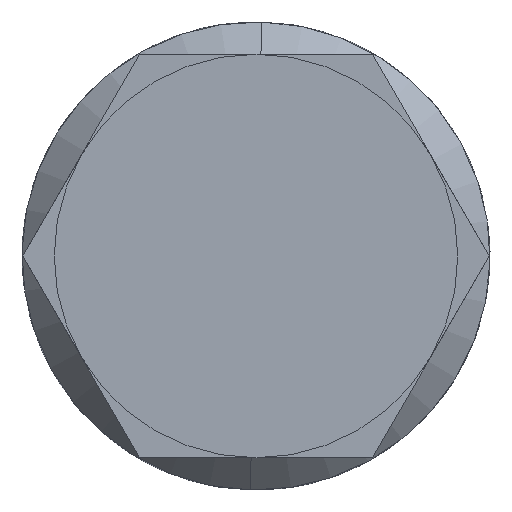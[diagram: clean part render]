
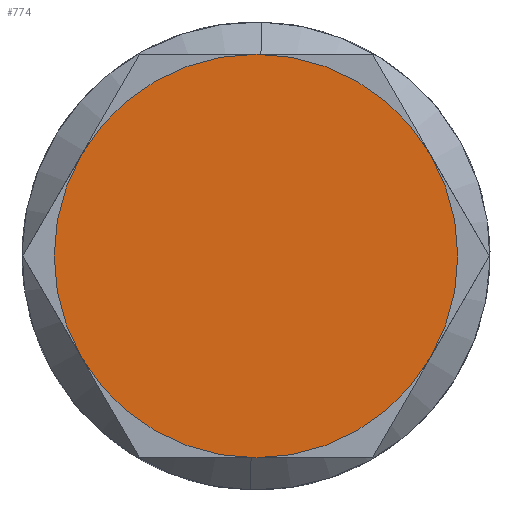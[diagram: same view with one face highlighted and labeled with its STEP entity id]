
A CAD part, left-side view. The second image highlights one B-rep face of the part: STEP entity #774.
In plain terms, the highlighted planar face has unit normal (-1, 0, 0).
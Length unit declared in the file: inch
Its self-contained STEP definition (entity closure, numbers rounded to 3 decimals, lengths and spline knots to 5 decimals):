
#31 = EDGE_LOOP ( 'NONE', ( #183, #166 ) ) ;
#166 = ORIENTED_EDGE ( 'NONE', *, *, #1517, .F. ) ;
#183 = ORIENTED_EDGE ( 'NONE', *, *, #1542, .F. ) ;
#206 = PLANE ( 'NONE',  #366 ) ;
#218 = CARTESIAN_POINT ( 'NONE',  ( -1.9335, 0.74097, 0. ) ) ;
#219 = DIRECTION ( 'NONE',  ( -1., 0., 0. ) ) ;
#220 = DIRECTION ( 'NONE',  ( 0., 0., 1. ) ) ;
#366 = AXIS2_PLACEMENT_3D ( 'NONE', #218, #219, #220 ) ;
#414 = AXIS2_PLACEMENT_3D ( 'NONE', #1219, #1220, #1221 ) ;
#426 = AXIS2_PLACEMENT_3D ( 'NONE', #682, #683, #684 ) ;
#682 = CARTESIAN_POINT ( 'NONE',  ( -1.9335, 0.11597, 0. ) ) ;
#683 = DIRECTION ( 'NONE',  ( 1., 0., 0. ) ) ;
#684 = DIRECTION ( 'NONE',  ( 0., 0., -1. ) ) ;
#774 = ADVANCED_FACE ( 'NONE', ( #836 ), #206, .T. ) ;
#836 = FACE_OUTER_BOUND ( 'NONE', #31, .T. ) ;
#944 = CIRCLE ( 'NONE', #414, 0.625 ) ;
#976 = CIRCLE ( 'NONE', #426, 0.625 ) ;
#1167 = CARTESIAN_POINT ( 'NONE',  ( -1.9335, 0.11597, 0.625 ) ) ;
#1184 = CARTESIAN_POINT ( 'NONE',  ( -1.9335, 0.11597, -0.625 ) ) ;
#1219 = CARTESIAN_POINT ( 'NONE',  ( -1.9335, 0.11597, 0. ) ) ;
#1220 = DIRECTION ( 'NONE',  ( 1., 0., 0. ) ) ;
#1221 = DIRECTION ( 'NONE',  ( 0., 0., -1. ) ) ;
#1320 = VERTEX_POINT ( 'NONE', #1167 ) ;
#1361 = VERTEX_POINT ( 'NONE', #1184 ) ;
#1517 = EDGE_CURVE ( 'NONE', #1320, #1361, #944, .T. ) ;
#1542 = EDGE_CURVE ( 'NONE', #1361, #1320, #976, .T. ) ;
